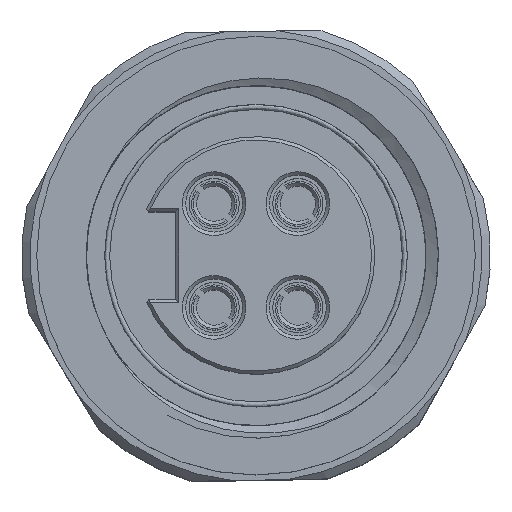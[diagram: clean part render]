
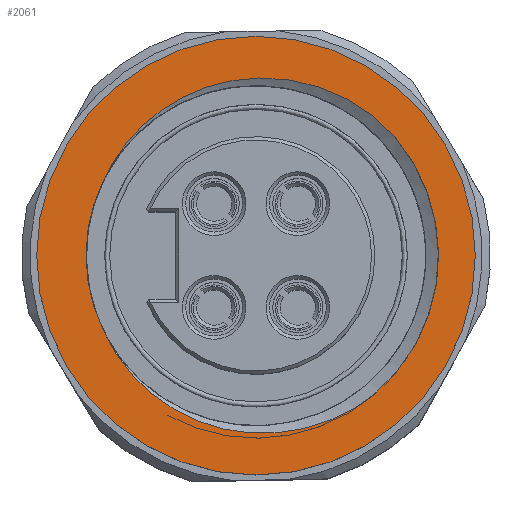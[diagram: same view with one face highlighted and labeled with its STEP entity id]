
A CAD part, top view. The second image highlights one B-rep face of the part: STEP entity #2061.
In plain terms, the highlighted planar face has unit normal (0, 0, 1).
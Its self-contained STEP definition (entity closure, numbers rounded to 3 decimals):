
#414=PLANE('',#10188);
#2061=ADVANCED_FACE('',(#2463,#2464),#414,.T.);
#2463=FACE_BOUND('',#2989,.T.);
#2464=FACE_BOUND('',#2990,.T.);
#2989=EDGE_LOOP('',(#6249,#6250,#6251,#6252));
#2990=EDGE_LOOP('',(#6253));
#3818=B_SPLINE_CURVE_WITH_KNOTS('',3,(#48347,#48348,#48349,#48350,#48351,
#48352),.UNSPECIFIED.,.F.,.F.,(4,2,4),(0.,0.5,1.),.UNSPECIFIED.);
#3819=B_SPLINE_CURVE_WITH_KNOTS('',3,(#48354,#48355,#48356,#48357,#48358,
#48359),.UNSPECIFIED.,.F.,.F.,(4,2,4),(0.,0.5,1.),.UNSPECIFIED.);
#6249=ORIENTED_EDGE('',*,*,#9000,.F.);
#6250=ORIENTED_EDGE('',*,*,#8999,.F.);
#6251=ORIENTED_EDGE('',*,*,#9001,.F.);
#6252=ORIENTED_EDGE('',*,*,#9002,.F.);
#6253=ORIENTED_EDGE('',*,*,#8996,.T.);
#7626=VERTEX_POINT('',#48277);
#7627=VERTEX_POINT('',#48311);
#7628=VERTEX_POINT('',#48344);
#7629=VERTEX_POINT('',#48353);
#7630=VERTEX_POINT('',#48360);
#8996=EDGE_CURVE('',#7626,#7626,#9505,.T.);
#8999=EDGE_CURVE('',#7628,#7627,#9506,.T.);
#9000=EDGE_CURVE('',#7627,#7629,#3818,.T.);
#9001=EDGE_CURVE('',#7630,#7628,#3819,.T.);
#9002=EDGE_CURVE('',#7629,#7630,#9507,.T.);
#9505=CIRCLE('',#10183,13.1);
#9506=CIRCLE('',#10185,10.15);
#9507=CIRCLE('',#10187,10.9);
#10183=AXIS2_PLACEMENT_3D('',#48276,#11861,#11862);
#10185=AXIS2_PLACEMENT_3D('',#48345,#11865,#11866);
#10187=AXIS2_PLACEMENT_3D('',#48361,#11869,#11870);
#10188=AXIS2_PLACEMENT_3D('',#48362,#11871,#11872);
#11861=DIRECTION('',(0.,0.,1.));
#11862=DIRECTION('',(1.,0.,0.));
#11865=DIRECTION('',(0.,0.,1.));
#11866=DIRECTION('',(1.,0.,0.));
#11869=DIRECTION('',(0.,0.,1.));
#11870=DIRECTION('',(-1.,0.,0.));
#11871=DIRECTION('',(0.,0.,1.));
#11872=DIRECTION('',(-1.,0.,0.));
#48276=CARTESIAN_POINT('',(-54.915,5.739,29.3));
#48277=CARTESIAN_POINT('',(-41.815,5.739,29.3));
#48311=CARTESIAN_POINT('',(-64.017,1.248,29.3));
#48344=CARTESIAN_POINT('',(-64.017,10.231,29.3));
#48345=CARTESIAN_POINT('',(-54.915,5.739,29.3));
#48347=CARTESIAN_POINT('',(-64.017,1.248,29.3));
#48348=CARTESIAN_POINT('',(-62.714,-1.687,29.3));
#48349=CARTESIAN_POINT('',(-60.009,-3.881,29.3));
#48350=CARTESIAN_POINT('',(-53.778,-5.328,29.3));
#48351=CARTESIAN_POINT('',(-50.409,-4.564,29.3));
#48352=CARTESIAN_POINT('',(-47.881,-2.587,29.3));
#48353=CARTESIAN_POINT('',(-47.881,-2.587,29.3));
#48354=CARTESIAN_POINT('',(-47.881,14.066,29.3));
#48355=CARTESIAN_POINT('',(-50.41,16.043,29.3));
#48356=CARTESIAN_POINT('',(-53.771,16.81,29.3));
#48357=CARTESIAN_POINT('',(-60.021,15.357,29.3));
#48358=CARTESIAN_POINT('',(-62.713,13.167,29.3));
#48359=CARTESIAN_POINT('',(-64.017,10.231,29.3));
#48360=CARTESIAN_POINT('',(-47.881,14.066,29.3));
#48361=CARTESIAN_POINT('',(-54.915,5.739,29.3));
#48362=CARTESIAN_POINT('',(-54.915,5.739,29.3));
